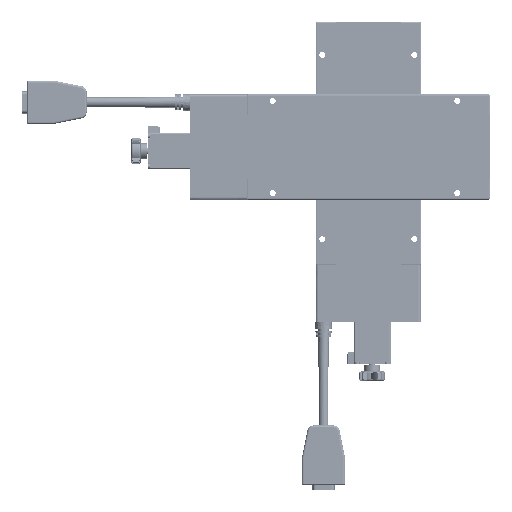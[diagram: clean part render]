
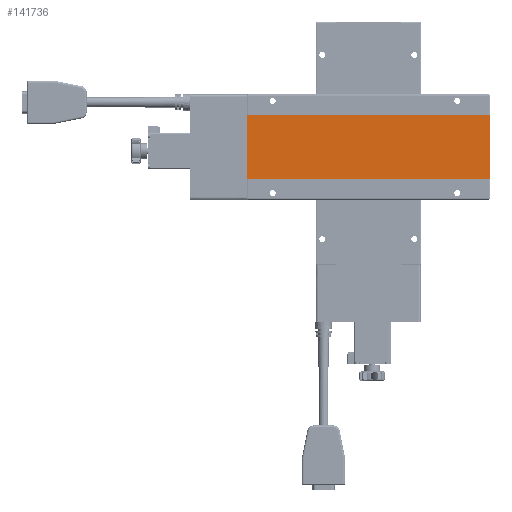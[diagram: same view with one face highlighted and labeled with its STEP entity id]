
A CAD part, front view. The second image highlights one B-rep face of the part: STEP entity #141736.
In plain terms, the highlighted planar face has unit normal (0, -1, 0).
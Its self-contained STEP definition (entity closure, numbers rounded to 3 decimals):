
#2152 = ORIENTED_EDGE ( 'NONE', *, *, #268904, .T. ) ;
#35995 = CARTESIAN_POINT ( 'NONE',  ( 24.3, 0.5, 0.2 ) ) ;
#43668 = CARTESIAN_POINT ( 'NONE',  ( 24.3, 0.5, 123.267 ) ) ;
#46930 = AXIS2_PLACEMENT_3D ( 'NONE', #53501, #121885, #145683 ) ;
#50174 = CARTESIAN_POINT ( 'NONE',  ( 24.3, 0.5, 184.8 ) ) ;
#51724 = CARTESIAN_POINT ( 'NONE',  ( -24.3, 0.5, 184.8 ) ) ;
#52452 = CARTESIAN_POINT ( 'NONE',  ( -24.3, 0.5, 0.2 ) ) ;
#53501 = CARTESIAN_POINT ( 'NONE',  ( -24.3, 0.5, 184.8 ) ) ;
#58442 = EDGE_CURVE ( 'NONE', #238016, #167025, #72486, .T. ) ;
#66072 = CARTESIAN_POINT ( 'NONE',  ( -8.1, 0.5, 0.2 ) ) ;
#72486 = B_SPLINE_CURVE_WITH_KNOTS ( 'NONE', 3,
 ( #50174, #104003, #274007, #51724 ),
 .UNSPECIFIED., .F., .F.,
 ( 4, 4 ),
 ( 0., 1. ),
 .UNSPECIFIED. ) ;
#76629 = B_SPLINE_CURVE_WITH_KNOTS ( 'NONE', 3,
 ( #308975, #261316, #43668, #76882 ),
 .UNSPECIFIED., .F., .F.,
 ( 4, 4 ),
 ( 0., 1. ),
 .UNSPECIFIED. ) ;
#76882 = CARTESIAN_POINT ( 'NONE',  ( 24.3, 0.5, 184.8 ) ) ;
#89608 = CARTESIAN_POINT ( 'NONE',  ( -24.3, 0.5, 61.733 ) ) ;
#91088 = ORIENTED_EDGE ( 'NONE', *, *, #125066, .T. ) ;
#95866 = CARTESIAN_POINT ( 'NONE',  ( -24.3, 0.5, 0.2 ) ) ;
#97135 = ORIENTED_EDGE ( 'NONE', *, *, #58442, .T. ) ;
#104003 = CARTESIAN_POINT ( 'NONE',  ( 8.1, 0.5, 184.8 ) ) ;
#109702 = VERTEX_POINT ( 'NONE', #251291 ) ;
#114295 = CARTESIAN_POINT ( 'NONE',  ( -24.3, 0.5, 184.8 ) ) ;
#114866 = B_SPLINE_CURVE_WITH_KNOTS ( 'NONE', 3,
 ( #258330, #66072, #182056, #35995 ),
 .UNSPECIFIED., .F., .F.,
 ( 4, 4 ),
 ( 0., 1. ),
 .UNSPECIFIED. ) ;
#116568 = CARTESIAN_POINT ( 'NONE',  ( -24.3, 0.5, 184.8 ) ) ;
#121885 = DIRECTION ( 'NONE',  ( 0., 1., 0. ) ) ;
#125066 = EDGE_CURVE ( 'NONE', #167025, #232067, #254400, .T. ) ;
#141736 = ADVANCED_FACE ( 'NONE', ( #220358 ), #294999, .F. ) ;
#145683 = DIRECTION ( 'NONE',  ( 1., 0., 0. ) ) ;
#167025 = VERTEX_POINT ( 'NONE', #114295 ) ;
#182056 = CARTESIAN_POINT ( 'NONE',  ( 8.1, 0.5, 0.2 ) ) ;
#199149 = ORIENTED_EDGE ( 'NONE', *, *, #231122, .T. ) ;
#211234 = CARTESIAN_POINT ( 'NONE',  ( 24.3, 0.5, 184.8 ) ) ;
#216615 = CARTESIAN_POINT ( 'NONE',  ( -24.3, 0.5, 123.267 ) ) ;
#220358 = FACE_OUTER_BOUND ( 'NONE', #223061, .T. ) ;
#223061 = EDGE_LOOP ( 'NONE', ( #199149, #2152, #97135, #91088 ) ) ;
#231122 = EDGE_CURVE ( 'NONE', #232067, #109702, #114866, .T. ) ;
#232067 = VERTEX_POINT ( 'NONE', #52452 ) ;
#238016 = VERTEX_POINT ( 'NONE', #211234 ) ;
#251291 = CARTESIAN_POINT ( 'NONE',  ( 24.3, 0.5, 0.2 ) ) ;
#254400 = B_SPLINE_CURVE_WITH_KNOTS ( 'NONE', 3,
 ( #116568, #216615, #89608, #95866 ),
 .UNSPECIFIED., .F., .F.,
 ( 4, 4 ),
 ( 0., 1. ),
 .UNSPECIFIED. ) ;
#258330 = CARTESIAN_POINT ( 'NONE',  ( -24.3, 0.5, 0.2 ) ) ;
#261316 = CARTESIAN_POINT ( 'NONE',  ( 24.3, 0.5, 61.733 ) ) ;
#268904 = EDGE_CURVE ( 'NONE', #109702, #238016, #76629, .T. ) ;
#274007 = CARTESIAN_POINT ( 'NONE',  ( -8.1, 0.5, 184.8 ) ) ;
#294999 = PLANE ( 'NONE',  #46930 ) ;
#308975 = CARTESIAN_POINT ( 'NONE',  ( 24.3, 0.5, 0.2 ) ) ;
